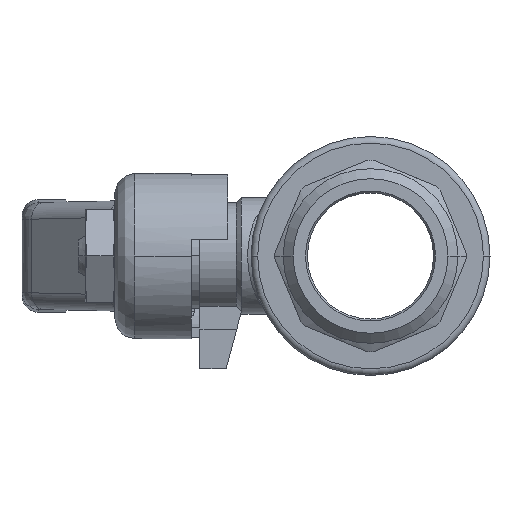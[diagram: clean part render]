
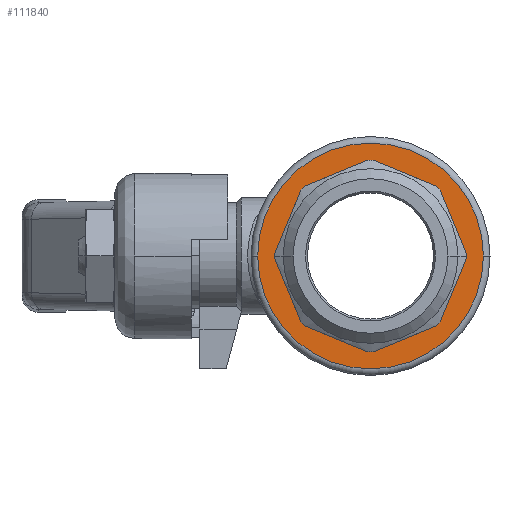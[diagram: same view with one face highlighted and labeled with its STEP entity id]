
A CAD part, left-side view. The second image highlights one B-rep face of the part: STEP entity #111840.
In plain terms, the highlighted planar face has unit normal (-1, 0, 0) as drawn and (1, 0, 0) by its records, which use the part's own axes.
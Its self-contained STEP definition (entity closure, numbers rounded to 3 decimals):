
#14240=CARTESIAN_POINT('',(17.,-9.927,
10.5));
#14250=VERTEX_POINT('',#14240);
#14430=CARTESIAN_POINT('',(17.,-10.5,
9.927));
#14440=VERTEX_POINT('',#14430);
#14470=CARTESIAN_POINT('',(17.,0.,
0.));
#14480=DIRECTION('',(1.,0.,0.));
#14490=DIRECTION('',(0.,1.,0.));
#14500=AXIS2_PLACEMENT_3D('',#14470,#14480,#14490);
#14510=CIRCLE('',#14500,14.45);
#14520=EDGE_CURVE('',#14250,#14440,#14510,.T.);
#55920=CARTESIAN_POINT('',(17.,9.927,
-10.5));
#55930=VERTEX_POINT('',#55920);
#56110=CARTESIAN_POINT('',(17.,10.5,
-9.927));
#56120=VERTEX_POINT('',#56110);
#56150=CARTESIAN_POINT('',(17.,0.,
0.));
#56160=DIRECTION('',(1.,0.,0.));
#56170=DIRECTION('',(0.,1.,0.));
#56180=AXIS2_PLACEMENT_3D('',#56150,#56160,#56170);
#56190=CIRCLE('',#56180,14.45);
#56200=EDGE_CURVE('',#55930,#56120,#56190,.T.);
#58990=CARTESIAN_POINT('',(17.,0.406,
14.444));
#59000=VERTEX_POINT('',#58990);
#59050=CARTESIAN_POINT('',(17.,0.,
14.612));
#59060=DIRECTION('',(0.,0.924,
-0.383));
#59070=VECTOR('',#59060,1.);
#59080=LINE('',#59050,#59070);
#59090=CARTESIAN_POINT('',(17.,9.927,
10.5));
#59100=VERTEX_POINT('',#59090);
#59110=EDGE_CURVE('',#59000,#59100,#59080,.T.);
#110470=CARTESIAN_POINT('',(17.,-16.225,
0.));
#110480=DIRECTION('',(1.,0.,0.));
#110490=DIRECTION('',(0.,1.,0.));
#110500=AXIS2_PLACEMENT_3D('',#110470,#110480,#110490);
#110510=PLANE('',#110500);
#110520=CARTESIAN_POINT('',(17.,0.,
0.));
#110530=DIRECTION('',(-1.,0.,0.));
#110540=DIRECTION('',(0.,-1.,0.));
#110550=AXIS2_PLACEMENT_3D('',#110520,#110530,#110540);
#110560=CIRCLE('',#110550,17.);
#110570=CARTESIAN_POINT('',(17.,-17.,
0.));
#110580=VERTEX_POINT('',#110570);
#110590=CARTESIAN_POINT('',(17.,17.,
0.));
#110600=VERTEX_POINT('',#110590);
#110610=EDGE_CURVE('',#110580,#110600,#110560,.T.);
#110620=ORIENTED_EDGE('',*,*,#110610,.F.);
#110630=EDGE_CURVE('',#110600,#110580,#110560,.T.);
#110640=ORIENTED_EDGE('',*,*,#110630,.F.);
#110650=EDGE_LOOP('',(#110640,#110620));
#110660=FACE_OUTER_BOUND('',#110650,.T.);
#110670=CARTESIAN_POINT('',(17.,0.,
0.));
#110680=DIRECTION('',(1.,0.,0.));
#110690=DIRECTION('',(0.,1.,0.));
#110700=AXIS2_PLACEMENT_3D('',#110670,#110680,#110690);
#110710=CIRCLE('',#110700,14.45);
#110720=CARTESIAN_POINT('',(17.,-14.444,
0.406));
#110730=VERTEX_POINT('',#110720);
#110740=CARTESIAN_POINT('',(17.,-14.45,0.
));
#110750=VERTEX_POINT('',#110740);
#110760=EDGE_CURVE('',#110730,#110750,#110710,.T.);
#110770=ORIENTED_EDGE('',*,*,#110760,.F.);
#110780=CARTESIAN_POINT('',(17.,-14.444,
-0.406));
#110790=VERTEX_POINT('',#110780);
#110800=EDGE_CURVE('',#110750,#110790,#110710,.T.);
#110810=ORIENTED_EDGE('',*,*,#110800,.F.);
#110820=CARTESIAN_POINT('',(17.,-14.612,
0.));
#110830=DIRECTION('',(0.,-0.383,
0.924));
#110840=VECTOR('',#110830,1.);
#110850=LINE('',#110820,#110840);
#110860=CARTESIAN_POINT('',(17.,-10.5,
-9.927));
#110870=VERTEX_POINT('',#110860);
#110880=EDGE_CURVE('',#110870,#110790,#110850,.T.);
#110890=ORIENTED_EDGE('',*,*,#110880,.T.);
#110900=CARTESIAN_POINT('',(17.,0.,
0.));
#110910=DIRECTION('',(1.,0.,0.));
#110920=DIRECTION('',(0.,1.,0.));
#110930=AXIS2_PLACEMENT_3D('',#110900,#110910,#110920);
#110940=CIRCLE('',#110930,14.45);
#110950=CARTESIAN_POINT('',(17.,-9.927,
-10.5));
#110960=VERTEX_POINT('',#110950);
#110970=EDGE_CURVE('',#110870,#110960,#110940,.T.);
#110980=ORIENTED_EDGE('',*,*,#110970,.F.);
#110990=CARTESIAN_POINT('',(17.,0.,
-14.612));
#111000=DIRECTION('',(0.,-0.924,
0.383));
#111010=VECTOR('',#111000,1.);
#111020=LINE('',#110990,#111010);
#111030=CARTESIAN_POINT('',(17.,-0.406,
-14.444));
#111040=VERTEX_POINT('',#111030);
#111050=EDGE_CURVE('',#111040,#110960,#111020,.T.);
#111060=ORIENTED_EDGE('',*,*,#111050,.T.);
#111070=CARTESIAN_POINT('',(17.,0.,
0.));
#111080=DIRECTION('',(1.,0.,0.));
#111090=DIRECTION('',(0.,1.,0.));
#111100=AXIS2_PLACEMENT_3D('',#111070,#111080,#111090);
#111110=CIRCLE('',#111100,14.45);
#111120=CARTESIAN_POINT('',(17.,0.406,
-14.444));
#111130=VERTEX_POINT('',#111120);
#111140=EDGE_CURVE('',#111040,#111130,#111110,.T.);
#111150=ORIENTED_EDGE('',*,*,#111140,.F.);
#111160=CARTESIAN_POINT('',(17.,0.,
-14.612));
#111170=DIRECTION('',(0.,-0.924,
-0.383));
#111180=VECTOR('',#111170,1.);
#111190=LINE('',#111160,#111180);
#111200=EDGE_CURVE('',#55930,#111130,#111190,.T.);
#111210=ORIENTED_EDGE('',*,*,#111200,.T.);
#111220=ORIENTED_EDGE('',*,*,#56200,.F.);
#111230=CARTESIAN_POINT('',(17.,14.612,
0.));
#111240=DIRECTION('',(0.,-0.383,
-0.924));
#111250=VECTOR('',#111240,1.);
#111260=LINE('',#111230,#111250);
#111270=CARTESIAN_POINT('',(17.,14.444,
-0.406));
#111280=VERTEX_POINT('',#111270);
#111290=EDGE_CURVE('',#111280,#56120,#111260,.T.);
#111300=ORIENTED_EDGE('',*,*,#111290,.T.);
#111310=CARTESIAN_POINT('',(17.,0.,
0.));
#111320=DIRECTION('',(1.,0.,0.));
#111330=DIRECTION('',(0.,1.,0.));
#111340=AXIS2_PLACEMENT_3D('',#111310,#111320,#111330);
#111350=CIRCLE('',#111340,14.45);
#111360=CARTESIAN_POINT('',(17.,14.45,0.
));
#111370=VERTEX_POINT('',#111360);
#111380=EDGE_CURVE('',#111280,#111370,#111350,.T.);
#111390=ORIENTED_EDGE('',*,*,#111380,.F.);
#111400=CARTESIAN_POINT('',(17.,14.444,
0.406));
#111410=VERTEX_POINT('',#111400);
#111420=EDGE_CURVE('',#111370,#111410,#111350,.T.);
#111430=ORIENTED_EDGE('',*,*,#111420,.F.);
#111440=CARTESIAN_POINT('',(17.,14.612,
0.));
#111450=DIRECTION('',(0.,0.383,
-0.924));
#111460=VECTOR('',#111450,1.);
#111470=LINE('',#111440,#111460);
#111480=CARTESIAN_POINT('',(17.,10.5,
9.927));
#111490=VERTEX_POINT('',#111480);
#111500=EDGE_CURVE('',#111490,#111410,#111470,.T.);
#111510=ORIENTED_EDGE('',*,*,#111500,.T.);
#111520=CARTESIAN_POINT('',(17.,0.,
0.));
#111530=DIRECTION('',(1.,0.,0.));
#111540=DIRECTION('',(0.,1.,0.));
#111550=AXIS2_PLACEMENT_3D('',#111520,#111530,#111540);
#111560=CIRCLE('',#111550,14.45);
#111570=EDGE_CURVE('',#111490,#59100,#111560,.T.);
#111580=ORIENTED_EDGE('',*,*,#111570,.F.);
#111590=ORIENTED_EDGE('',*,*,#59110,.T.);
#111600=CARTESIAN_POINT('',(17.,0.,
0.));
#111610=DIRECTION('',(1.,0.,0.));
#111620=DIRECTION('',(0.,1.,0.));
#111630=AXIS2_PLACEMENT_3D('',#111600,#111610,#111620);
#111640=CIRCLE('',#111630,14.45);
#111650=CARTESIAN_POINT('',(17.,-0.406,
14.444));
#111660=VERTEX_POINT('',#111650);
#111670=EDGE_CURVE('',#59000,#111660,#111640,.T.);
#111680=ORIENTED_EDGE('',*,*,#111670,.F.);
#111690=CARTESIAN_POINT('',(17.,0.,
14.612));
#111700=DIRECTION('',(0.,0.924,
0.383));
#111710=VECTOR('',#111700,1.);
#111720=LINE('',#111690,#111710);
#111730=EDGE_CURVE('',#14250,#111660,#111720,.T.);
#111740=ORIENTED_EDGE('',*,*,#111730,.T.);
#111750=ORIENTED_EDGE('',*,*,#14520,.F.);
#111760=CARTESIAN_POINT('',(17.,-14.612,
0.));
#111770=DIRECTION('',(0.,0.383,
0.924));
#111780=VECTOR('',#111770,1.);
#111790=LINE('',#111760,#111780);
#111800=EDGE_CURVE('',#110730,#14440,#111790,.T.);
#111810=ORIENTED_EDGE('',*,*,#111800,.T.);
#111820=EDGE_LOOP('',(#111810,#111750,#111740,#111680,#111590,#111580,
#111510,#111430,#111390,#111300,#111220,#111210,#111150,#111060,#110980,
#110890,#110810,#110770));
#111830=FACE_BOUND('',#111820,.T.);
#111840=ADVANCED_FACE('',(#110660,#111830),#110510,.T.);
